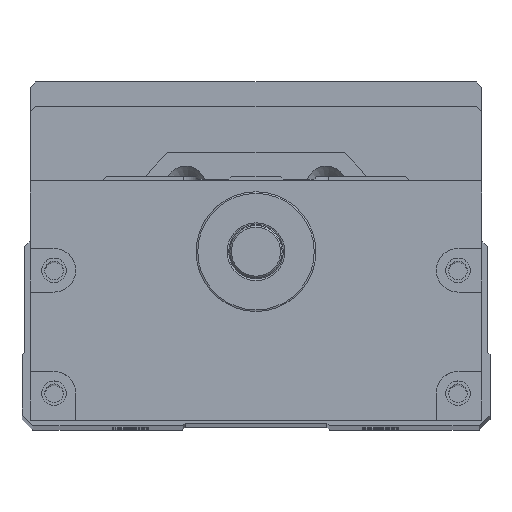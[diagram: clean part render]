
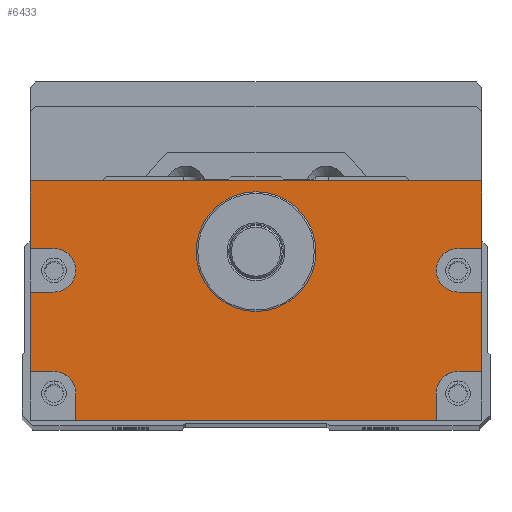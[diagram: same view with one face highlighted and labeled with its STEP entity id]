
A CAD part, top view. The second image highlights one B-rep face of the part: STEP entity #6433.
In plain terms, the highlighted planar face has unit normal (0, 0, 1).
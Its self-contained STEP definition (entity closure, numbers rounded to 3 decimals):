
#519=LINE('',#27092,#1234);
#521=LINE('',#27096,#1236);
#522=LINE('',#27099,#1237);
#523=LINE('',#27101,#1238);
#524=LINE('',#27105,#1239);
#525=LINE('',#27107,#1240);
#526=LINE('',#27108,#1241);
#527=LINE('',#27110,#1242);
#528=LINE('',#27114,#1243);
#529=LINE('',#27116,#1244);
#530=LINE('',#27118,#1245);
#531=LINE('',#27122,#1246);
#532=LINE('',#27124,#1247);
#533=LINE('',#27126,#1248);
#1234=VECTOR('',#15706,1.);
#1236=VECTOR('',#15710,1.);
#1237=VECTOR('',#15711,1.);
#1238=VECTOR('',#15712,1.);
#1239=VECTOR('',#15715,1.);
#1240=VECTOR('',#15716,1.);
#1241=VECTOR('',#15717,1.);
#1242=VECTOR('',#15718,1.);
#1243=VECTOR('',#15721,1.);
#1244=VECTOR('',#15722,1.);
#1245=VECTOR('',#15723,1.);
#1246=VECTOR('',#15726,1.);
#1247=VECTOR('',#15727,1.);
#1248=VECTOR('',#15728,1.);
#6433=ADVANCED_FACE('',(#7297,#7298),#6900,.T.);
#6900=PLANE('',#14215);
#7297=FACE_BOUND('',#7873,.T.);
#7298=FACE_BOUND('',#7874,.T.);
#7873=EDGE_LOOP('',(#9335,#9336,#9337,#9338,#9339,#9340,#9341,#9342,#9343,
#9344,#9345,#9346,#9347,#9348,#9349,#9350,#9351,#9352));
#7874=EDGE_LOOP('',(#9353));
#9335=ORIENTED_EDGE('',*,*,#12577,.F.);
#9336=ORIENTED_EDGE('',*,*,#12578,.T.);
#9337=ORIENTED_EDGE('',*,*,#12579,.F.);
#9338=ORIENTED_EDGE('',*,*,#12580,.F.);
#9339=ORIENTED_EDGE('',*,*,#12581,.F.);
#9340=ORIENTED_EDGE('',*,*,#12582,.T.);
#9341=ORIENTED_EDGE('',*,*,#12575,.T.);
#9342=ORIENTED_EDGE('',*,*,#12583,.T.);
#9343=ORIENTED_EDGE('',*,*,#12584,.F.);
#9344=ORIENTED_EDGE('',*,*,#12585,.F.);
#9345=ORIENTED_EDGE('',*,*,#12586,.F.);
#9346=ORIENTED_EDGE('',*,*,#12587,.T.);
#9347=ORIENTED_EDGE('',*,*,#12588,.F.);
#9348=ORIENTED_EDGE('',*,*,#12589,.F.);
#9349=ORIENTED_EDGE('',*,*,#12590,.F.);
#9350=ORIENTED_EDGE('',*,*,#12591,.T.);
#9351=ORIENTED_EDGE('',*,*,#12592,.F.);
#9352=ORIENTED_EDGE('',*,*,#12593,.F.);
#9353=ORIENTED_EDGE('',*,*,#12561,.T.);
#11454=VERTEX_POINT('',#27063);
#11467=VERTEX_POINT('',#27091);
#11468=VERTEX_POINT('',#27093);
#11469=VERTEX_POINT('',#27097);
#11470=VERTEX_POINT('',#27098);
#11471=VERTEX_POINT('',#27100);
#11472=VERTEX_POINT('',#27102);
#11473=VERTEX_POINT('',#27104);
#11474=VERTEX_POINT('',#27106);
#11475=VERTEX_POINT('',#27109);
#11476=VERTEX_POINT('',#27111);
#11477=VERTEX_POINT('',#27113);
#11478=VERTEX_POINT('',#27115);
#11479=VERTEX_POINT('',#27117);
#11480=VERTEX_POINT('',#27119);
#11481=VERTEX_POINT('',#27121);
#11482=VERTEX_POINT('',#27123);
#11483=VERTEX_POINT('',#27125);
#11484=VERTEX_POINT('',#27127);
#12561=EDGE_CURVE('',#11454,#11454,#13610,.T.);
#12575=EDGE_CURVE('',#11468,#11467,#519,.T.);
#12577=EDGE_CURVE('',#11469,#11470,#521,.T.);
#12578=EDGE_CURVE('',#11469,#11471,#522,.T.);
#12579=EDGE_CURVE('',#11472,#11471,#523,.T.);
#12580=EDGE_CURVE('',#11473,#11472,#13619,.T.);
#12581=EDGE_CURVE('',#11474,#11473,#524,.T.);
#12582=EDGE_CURVE('',#11474,#11468,#525,.T.);
#12583=EDGE_CURVE('',#11467,#11475,#526,.T.);
#12584=EDGE_CURVE('',#11476,#11475,#527,.T.);
#12585=EDGE_CURVE('',#11477,#11476,#13620,.T.);
#12586=EDGE_CURVE('',#11478,#11477,#528,.T.);
#12587=EDGE_CURVE('',#11478,#11479,#529,.T.);
#12588=EDGE_CURVE('',#11480,#11479,#530,.T.);
#12589=EDGE_CURVE('',#11481,#11480,#13621,.T.);
#12590=EDGE_CURVE('',#11482,#11481,#531,.T.);
#12591=EDGE_CURVE('',#11482,#11483,#532,.T.);
#12592=EDGE_CURVE('',#11484,#11483,#533,.T.);
#12593=EDGE_CURVE('',#11470,#11484,#13622,.T.);
#13610=CIRCLE('',#14199,11.);
#13619=CIRCLE('',#14211,4.);
#13620=CIRCLE('',#14212,4.);
#13621=CIRCLE('',#14213,4.);
#13622=CIRCLE('',#14214,4.);
#14199=AXIS2_PLACEMENT_3D('',#27062,#15679,#15680);
#14211=AXIS2_PLACEMENT_3D('',#27103,#15713,#15714);
#14212=AXIS2_PLACEMENT_3D('',#27112,#15719,#15720);
#14213=AXIS2_PLACEMENT_3D('',#27120,#15724,#15725);
#14214=AXIS2_PLACEMENT_3D('',#27128,#15729,#15730);
#14215=AXIS2_PLACEMENT_3D('',#27129,#15731,#15732);
#15679=DIRECTION('',(0.,0.,-1.));
#15680=DIRECTION('',(1.,0.,0.));
#15706=DIRECTION('',(-1.,0.,0.));
#15710=DIRECTION('',(-1.,0.,0.));
#15711=DIRECTION('',(0.,1.,0.));
#15712=DIRECTION('',(1.,0.,0.));
#15713=DIRECTION('',(0.,0.,1.));
#15714=DIRECTION('',(1.,0.,0.));
#15715=DIRECTION('',(-1.,0.,0.));
#15716=DIRECTION('',(0.,1.,0.));
#15717=DIRECTION('',(0.,-1.,0.));
#15718=DIRECTION('',(-1.,0.,0.));
#15719=DIRECTION('',(0.,0.,1.));
#15720=DIRECTION('',(1.,0.,0.));
#15721=DIRECTION('',(1.,0.,0.));
#15722=DIRECTION('',(0.,-1.,0.));
#15723=DIRECTION('',(-1.,0.,0.));
#15724=DIRECTION('',(0.,0.,1.));
#15725=DIRECTION('',(1.,0.,0.));
#15726=DIRECTION('',(0.,1.,0.));
#15727=DIRECTION('',(1.,0.,0.));
#15728=DIRECTION('',(0.,-1.,0.));
#15729=DIRECTION('',(0.,0.,1.));
#15730=DIRECTION('',(1.,0.,0.));
#15731=DIRECTION('',(0.,0.,1.));
#15732=DIRECTION('',(-1.,0.,0.));
#27062=CARTESIAN_POINT('',(600.,0.,282.5));
#27063=CARTESIAN_POINT('',(611.,0.,282.5));
#27091=CARTESIAN_POINT('',(558.5,13.,282.5));
#27092=CARTESIAN_POINT('',(641.5,13.,282.5));
#27093=CARTESIAN_POINT('',(641.5,13.,282.5));
#27096=CARTESIAN_POINT('',(641.5,-22.,282.5));
#27097=CARTESIAN_POINT('',(641.5,-22.,282.5));
#27098=CARTESIAN_POINT('',(637.115,-22.,282.5));
#27099=CARTESIAN_POINT('',(641.5,-31.,282.5));
#27100=CARTESIAN_POINT('',(641.5,-7.431,282.5));
#27101=CARTESIAN_POINT('',(641.5,-7.431,282.5));
#27102=CARTESIAN_POINT('',(637.115,-7.431,282.5));
#27103=CARTESIAN_POINT('',(637.115,-3.431,282.5));
#27104=CARTESIAN_POINT('',(637.115,0.569,282.5));
#27105=CARTESIAN_POINT('',(641.5,0.569,282.5));
#27106=CARTESIAN_POINT('',(641.5,0.569,282.5));
#27107=CARTESIAN_POINT('',(641.5,-31.,282.5));
#27108=CARTESIAN_POINT('',(558.5,27.5,282.5));
#27109=CARTESIAN_POINT('',(558.5,0.569,282.5));
#27110=CARTESIAN_POINT('',(641.5,0.569,282.5));
#27111=CARTESIAN_POINT('',(562.885,0.569,282.5));
#27112=CARTESIAN_POINT('',(562.885,-3.431,282.5));
#27113=CARTESIAN_POINT('',(562.885,-7.431,282.5));
#27114=CARTESIAN_POINT('',(641.5,-7.431,282.5));
#27115=CARTESIAN_POINT('',(558.5,-7.431,282.5));
#27116=CARTESIAN_POINT('',(558.5,27.5,282.5));
#27117=CARTESIAN_POINT('',(558.5,-22.,282.5));
#27118=CARTESIAN_POINT('',(641.5,-22.,282.5));
#27119=CARTESIAN_POINT('',(562.885,-22.,282.5));
#27120=CARTESIAN_POINT('',(562.885,-26.,282.5));
#27121=CARTESIAN_POINT('',(566.885,-26.,282.5));
#27122=CARTESIAN_POINT('',(566.885,-31.,282.5));
#27123=CARTESIAN_POINT('',(566.885,-31.,282.5));
#27124=CARTESIAN_POINT('',(558.5,-31.,282.5));
#27125=CARTESIAN_POINT('',(633.115,-31.,282.5));
#27126=CARTESIAN_POINT('',(633.115,-31.,282.5));
#27127=CARTESIAN_POINT('',(633.115,-26.,282.5));
#27128=CARTESIAN_POINT('',(637.115,-26.,282.5));
#27129=CARTESIAN_POINT('',(641.5,-31.,282.5));
